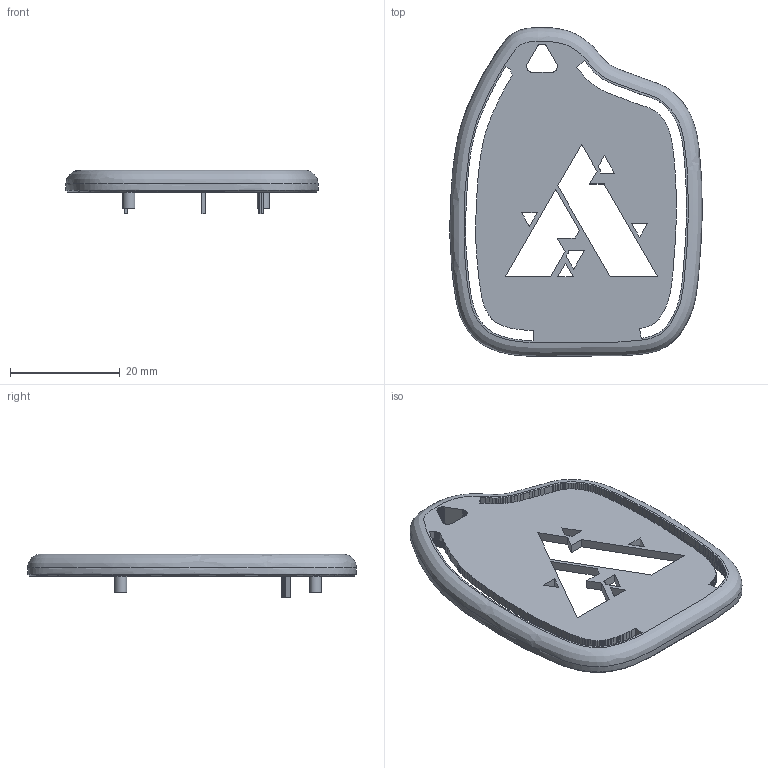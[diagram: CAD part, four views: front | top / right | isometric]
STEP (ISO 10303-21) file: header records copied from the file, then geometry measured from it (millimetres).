
FILE_DESCRIPTION(('Open CASCADE Model'),'2;1');
FILE_NAME('Open CASCADE Shape Model','2026-10-15T03:32:00',('Author'),( 'Open CASCADE'),'Open CASCADE STEP processor 7.9','Open CASCADE 7.9' ,'Unknown');
FILE_SCHEMA(('AUTOMOTIVE_DESIGN { 1 0 10303 214 1 1 1 1 }'));
Products named in the file (1): Open CASCADE STEP translator 7.9 1
Bounding box: 46 x 59.96 x 8 mm (x, y, z)
Volume: 3604.8 mm3; surface area: 5358 mm2
Topology: 1 solids, 1 shells, 912 faces, 2710 edges, 1806 vertices
Faces by surface type: plane 907, bspline 2, cylinder 2, extrusion 1
Full cylindrical faces by diameter (mm): 2.2 x2
Entity records: 72140 total; most frequent: CARTESIAN_POINT 23449, DIRECTION 7139, ORIENTED_EDGE 5420, PCURVE 5420, DEFINITIONAL_REPRESENTATION 5420, VECTOR 5307, LINE 5306, B_SPLINE_CURVE_WITH_KNOTS 2814
